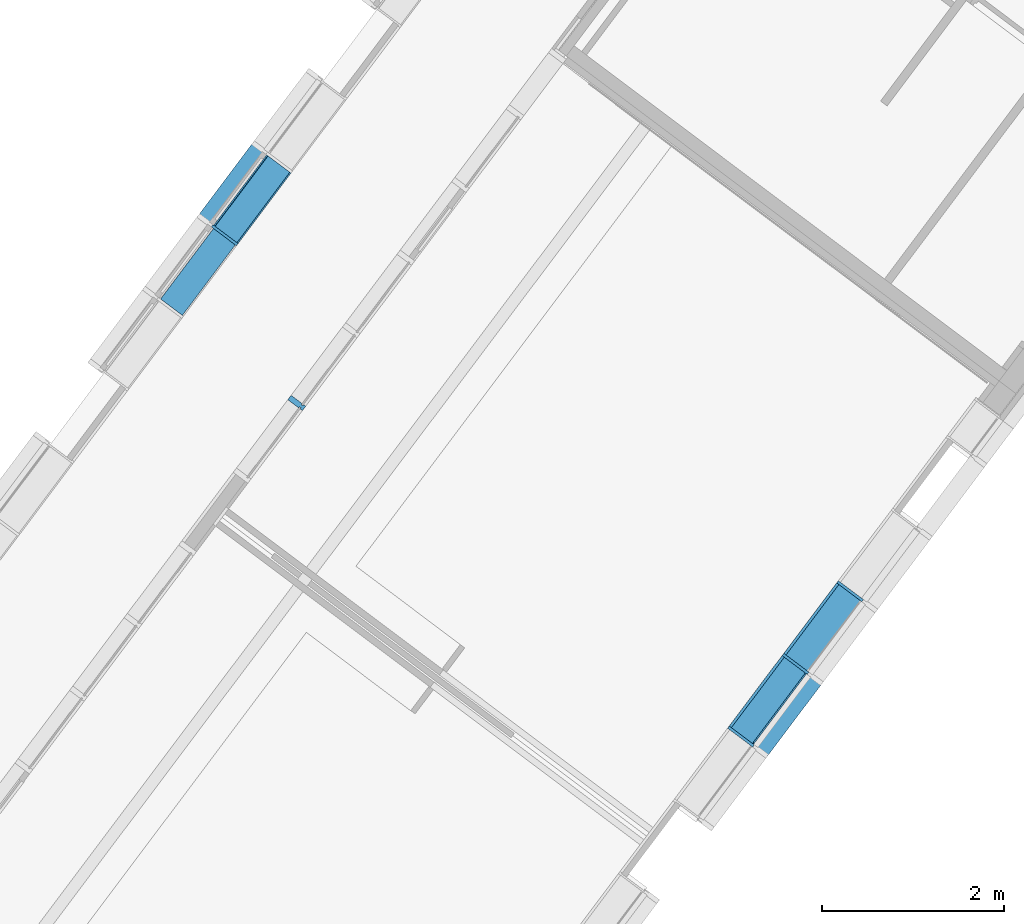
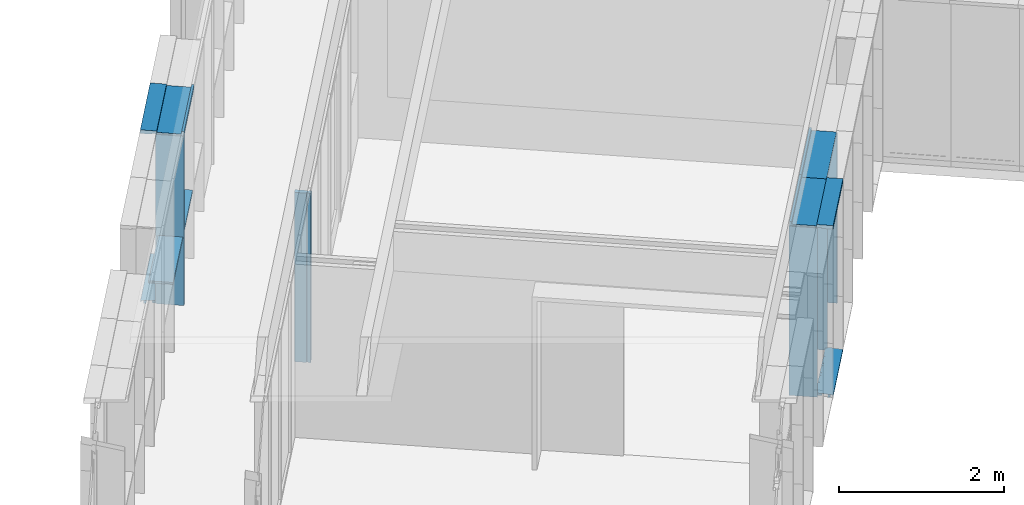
# One storey, part 58 of 243: 15 members, 5 elements without a shape of their own.
"""IFC2X3 building model written with IfcOpenShell, lengths in metres."""

from ifc_helpers import new_model, entity, si_unit, converted_unit, derived_unit, direction, frame, frame_2d, origin, place, context, subcontext, project, spatial, polyline, circle_curve, parameter, trimmed, segment, composite_curve, rectangle, outline, extrude, source, transform, mapped, material, type_object, type_shapes, element, aggregate, save


model = new_model("IFC2X3")

# Units and contexts
model_context = context("Model", 3, precision=1e-05, world=origin(), true_north=direction((6.123031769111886e-17, 1.0)))
body_context = subcontext(model_context, "Body", "Model", "MODEL_VIEW")
ifc_project = project(units=[si_unit("LENGTHUNIT", "METRE"), si_unit("AREAUNIT", "SQUARE_METRE"), si_unit("VOLUMEUNIT", "CUBIC_METRE"), converted_unit("PLANEANGLEUNIT", "DEGREE", entity("IfcRatioMeasure", 0.017453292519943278), si_unit("PLANEANGLEUNIT", "RADIAN"), dimensions=[0, 0, 0, 0, 0, 0, 0]), si_unit("MASSUNIT", "GRAM", prefix="KILO"), derived_unit("MASSDENSITYUNIT", [(si_unit("MASSUNIT", "GRAM", prefix="KILO"), 1), (si_unit("LENGTHUNIT", "METRE"), -3)]), derived_unit("IONCONCENTRATIONUNIT", [(si_unit("MASSUNIT", "GRAM", prefix="KILO"), 1), (si_unit("LENGTHUNIT", "METRE"), -3)]), derived_unit("MOMENTOFINERTIAUNIT", [(si_unit("LENGTHUNIT", "METRE"), 4)]), si_unit("TIMEUNIT", "SECOND"), si_unit("FREQUENCYUNIT", "HERTZ"), si_unit("THERMODYNAMICTEMPERATUREUNIT", "DEGREE_CELSIUS"), derived_unit("THERMALTRANSMITTANCEUNIT", [(si_unit("MASSUNIT", "GRAM", prefix="KILO"), 1), (si_unit("THERMODYNAMICTEMPERATUREUNIT", "KELVIN"), -1), (si_unit("TIMEUNIT", "SECOND"), -3)]), derived_unit("THERMALCONDUCTANCEUNIT", [(si_unit("MASSUNIT", "GRAM", prefix="KILO"), 1), (si_unit("THERMODYNAMICTEMPERATUREUNIT", "KELVIN"), -1), (si_unit("TIMEUNIT", "SECOND"), -3), (si_unit("LENGTHUNIT", "METRE"), 1)]), derived_unit("VOLUMETRICFLOWRATEUNIT", [(si_unit("LENGTHUNIT", "METRE"), 3), (si_unit("TIMEUNIT", "SECOND"), -1)]), derived_unit("MASSFLOWRATEUNIT", [(si_unit("MASSUNIT", "GRAM", prefix="KILO"), 1), (si_unit("TIMEUNIT", "SECOND"), -1)]), derived_unit("ROTATIONALFREQUENCYUNIT", [(si_unit("TIMEUNIT", "SECOND"), -1)]), si_unit("ELECTRICCURRENTUNIT", "AMPERE"), si_unit("ELECTRICVOLTAGEUNIT", "VOLT"), si_unit("POWERUNIT", "WATT"), si_unit("FORCEUNIT", "NEWTON", prefix="KILO"), si_unit("ILLUMINANCEUNIT", "LUX"), si_unit("LUMINOUSFLUXUNIT", "LUMEN"), si_unit("LUMINOUSINTENSITYUNIT", "CANDELA"), derived_unit("USERDEFINED", [(si_unit("MASSUNIT", "GRAM", prefix="KILO"), -1), (si_unit("LENGTHUNIT", "METRE"), -2), (si_unit("TIMEUNIT", "SECOND"), 3), (si_unit("LUMINOUSFLUXUNIT", "LUMEN"), 1)]), derived_unit("USERDEFINED", [(si_unit("MASSUNIT", "GRAM", prefix="KILO"), 1), (si_unit("TIMEUNIT", "SECOND"), -3), (si_unit("LENGTHUNIT", "METRE"), 3), (si_unit("ELECTRICCURRENTUNIT", "AMPERE"), -2)]), derived_unit("SOUNDPOWERUNIT", [(si_unit("MASSUNIT", "GRAM", prefix="KILO"), 1), (si_unit("TIMEUNIT", "SECOND"), -3), (si_unit("LENGTHUNIT", "METRE"), 2)]), derived_unit("SOUNDPRESSUREUNIT", [(si_unit("MASSUNIT", "GRAM", prefix="KILO"), 1), (si_unit("LENGTHUNIT", "METRE"), -1), (si_unit("TIMEUNIT", "SECOND"), -2)]), derived_unit("LINEARVELOCITYUNIT", [(si_unit("LENGTHUNIT", "METRE"), 1), (si_unit("TIMEUNIT", "SECOND"), -1)]), si_unit("PRESSUREUNIT", "PASCAL"), derived_unit("USERDEFINED", [(si_unit("MASSUNIT", "GRAM", prefix="KILO"), 1), (si_unit("LENGTHUNIT", "METRE"), -2), (si_unit("TIMEUNIT", "SECOND"), -2)]), derived_unit("LINEARFORCEUNIT", [(si_unit("MASSUNIT", "GRAM", prefix="KILO"), 1), (si_unit("TIMEUNIT", "SECOND"), -2)]), derived_unit("PLANARFORCEUNIT", [(si_unit("MASSUNIT", "GRAM", prefix="KILO"), 1), (si_unit("LENGTHUNIT", "METRE"), -1), (si_unit("TIMEUNIT", "SECOND"), -2)]), derived_unit("SPECIFICHEATCAPACITYUNIT", [(si_unit("THERMODYNAMICTEMPERATUREUNIT", "KELVIN"), -1), (si_unit("LENGTHUNIT", "METRE"), 2), (si_unit("TIMEUNIT", "SECOND"), -2)]), derived_unit("HEATINGVALUEUNIT", [(si_unit("LENGTHUNIT", "METRE"), 2), (si_unit("TIMEUNIT", "SECOND"), -2)]), derived_unit("VAPORPERMEABILITYUNIT", [(si_unit("LENGTHUNIT", "METRE"), -1), (si_unit("TIMEUNIT", "SECOND"), 1)]), derived_unit("DYNAMICVISCOSITYUNIT", [(si_unit("MASSUNIT", "GRAM", prefix="KILO"), 1), (si_unit("TIMEUNIT", "SECOND"), -1), (si_unit("LENGTHUNIT", "METRE"), -1)]), derived_unit("THERMALEXPANSIONCOEFFICIENTUNIT", [(si_unit("THERMODYNAMICTEMPERATUREUNIT", "KELVIN"), -1)]), derived_unit("MODULUSOFELASTICITYUNIT", [(si_unit("MASSUNIT", "GRAM", prefix="KILO"), 1), (si_unit("LENGTHUNIT", "METRE"), -1), (si_unit("TIMEUNIT", "SECOND"), -2)]), derived_unit("ISOTHERMALMOISTURECAPACITYUNIT", [(si_unit("LENGTHUNIT", "METRE"), 3), (si_unit("MASSUNIT", "GRAM", prefix="KILO"), -1)]), derived_unit("MOISTUREDIFFUSIVITYUNIT", [(si_unit("TIMEUNIT", "SECOND"), -1), (si_unit("LENGTHUNIT", "METRE"), 2)])], contexts=[model_context])

# Site, building, storey
site_placement = place(None, frame((0.0, 0.0, 235.0), z_axis=(0.0, 0.0, 1.0), x_axis=(-0.7996477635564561, 0.6004693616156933, 0.0)))
site = spatial("IfcSite", under=ifc_project, at=site_placement, Name="Default", CompositionType="ELEMENT")
building_placement = place(site_placement, origin())
building = spatial("IfcBuilding", under=site, at=building_placement, CompositionType="ELEMENT")
storey_placement = place(building_placement, origin())
storey = spatial("IfcBuildingStorey", under=building, at=storey_placement, Name="P0- Escola", CompositionType="ELEMENT", Elevation=0.0)

# Curtain wall, member
curtain_wall_type_1 = type_object("IfcCurtainWallType", Name="Muro cortina:MC- INT- a1", PredefinedType="NOTDEFINED")
curtain_wall_1_placement = place(storey_placement, origin())
curtain_wall_1 = element("IfcCurtainWall", 1, at=curtain_wall_1_placement, inside=storey, type_object=curtain_wall_type_1, Name="Muro cortina:MC- INT- a1", ObjectType="Muro cortina:MC- INT- a1")
ifc_material_1 = material(Name="_Fusta massisa- T1")
member_type_1 = type_object("IfcMemberType", Name="Montante rectangular:MC- Fusta- 20x6 cm- Centre", PredefinedType="MULLION", material=ifc_material_1)
shared_shape_1 = source(origin(), body_context, "Body", "SweptSolid", [
    extrude(outline(polyline([(-0.06000000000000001, -0.030000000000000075), (-0.03, -0.030000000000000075), (-0.029999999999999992, -0.015000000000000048), (-0.009999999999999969, -0.01499999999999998), (-0.009999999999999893, -0.030000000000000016), (0.14000000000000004, -0.029999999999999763), (0.13999999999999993, 0.030000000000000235), (-0.010000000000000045, 0.02999999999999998), (-0.01000000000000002, 0.014999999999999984), (-0.030000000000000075, 0.014999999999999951), (-0.03000000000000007, 0.029999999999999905), (-0.059999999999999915, 0.029999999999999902), (-0.06000000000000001, -0.030000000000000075)])), frame((0.0, -0.019999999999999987, -2.505000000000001), z_axis=(0.0, 0.0, 1.0), x_axis=(0.0, -1.0, 0.0)), (0.0, 0.0, 1.0), 2.5050000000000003),
])
type_shapes(member_type_1, [shared_shape_1])
member_1_placement = place(curtain_wall_1_placement, frame((72.720147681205, -31.415189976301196, 0.0), z_axis=(0.0, 0.0, -1.0), x_axis=(0.0, -1.0, 0.0)))
member_1 = element("IfcMember", 2, at=member_1_placement, type_object=member_type_1, material=ifc_material_1, Name="Montante rectangular:MC- Fusta- 20x6 cm- Centre", ObjectType="Montante rectangular:MC- Fusta- 20x6 cm- Centre", context=body_context, shape_type="MappedRepresentation", body=[
    mapped(shared_shape_1, transform((0.0, 0.0, 0.0), scale=1.0)),
])
aggregate(curtain_wall_1, [member_1])

# Curtain wall, members
curtain_wall_type_2 = type_object("IfcCurtainWallType", Name="Muro cortina:MC- EXT- MC2", PredefinedType="NOTDEFINED")
curtain_wall_2_placement = place(storey_placement, origin())
curtain_wall_2 = element("IfcCurtainWall", 3, at=curtain_wall_2_placement, inside=storey, type_object=curtain_wall_type_2, Name="Muro cortina:MC- EXT- MC2", ObjectType="Muro cortina:MC- EXT- MC2")
ifc_material_2 = material(Name="_Alumini- T1- Perfil")
member_type_2 = type_object("IfcMemberType", Name="Montante rectangular:MC- Alu- 140x52,5 cm- Fa patis- Superior", PredefinedType="MULLION", material=ifc_material_2)
shared_shape_2 = source(origin(), body_context, "Body", "SweptSolid", [
    extrude(outline(polyline([(-0.11366666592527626, -0.021249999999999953), (0.026333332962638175, -0.021249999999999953), (0.026333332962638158, -0.010000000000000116), (0.0873333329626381, -0.010000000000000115), (0.0873333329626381, 0.03125000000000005), (-0.11366666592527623, 0.031250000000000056), (-0.11366666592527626, -0.021249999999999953)])), frame((-0.031250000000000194, 0.0273333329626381, -1.0), z_axis=(0.0, 0.0, 1.0), x_axis=(0.0, -1.0, 0.0)), (0.0, 0.0, 1.0), 0.9999999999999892),
])
type_shapes(member_type_2, [shared_shape_2])
member_2_placement = place(curtain_wall_2_placement, frame((66.44514768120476, -32.41519175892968, 2.545), z_axis=(0.0, -1.0, 0.0), x_axis=(0.0, 0.0, 1.0)))
member_2 = element("IfcMember", 4, at=member_2_placement, type_object=member_type_2, material=ifc_material_2, Name="Montante rectangular:MC- Alu- 140x52,5 cm- Fa patis- Superior", ObjectType="Montante rectangular:MC- Alu- 140x52,5 cm- Fa patis- Superior", context=body_context, shape_type="MappedRepresentation", body=[
    mapped(shared_shape_2, transform((0.0, 0.0, 0.0), scale=1.0)),
])
member_type_3 = type_object("IfcMemberType", Name="Montante rectangular:MC- Alu- 140x52,5 cm- Fa patis- inferior", PredefinedType="MULLION", material=ifc_material_2)
shared_shape_3 = source(origin(), body_context, "Body", "SweptSolid", [
    extrude(outline(composite_curve([segment(polyline([(0.1278672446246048, -0.02586710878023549), (0.14416724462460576, -0.025867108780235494)]), True, "CONTINUOUS"), segment(polyline([(0.14416724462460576, -0.025867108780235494), (0.1441672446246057, 0.009132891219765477)]), True, "CONTINUOUS"), segment(polyline([(0.1441672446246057, 0.009132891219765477), (0.06786724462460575, 0.009132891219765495)]), True, "CONTINUOUS"), segment(polyline([(0.06786724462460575, 0.009132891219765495), (0.06786724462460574, -0.021159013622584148)]), True, "CONTINUOUS"), segment(polyline([(0.06786724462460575, -0.02115901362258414), (-0.030132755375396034, -0.012332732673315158)]), True, "CONTINUOUS"), segment(polyline([(-0.03013275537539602, -0.012332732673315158), (-0.030132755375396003, 0.027132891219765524)]), True, "CONTINUOUS"), segment(polyline([(-0.030132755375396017, 0.02713289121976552), (-0.0021327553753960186, 0.02713289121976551)]), True, "CONTINUOUS"), segment(polyline([(-0.0021327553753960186, 0.027132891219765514), (-0.0021327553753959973, 0.029132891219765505)]), True, "CONTINUOUS"), segment(polyline([(-0.0021327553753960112, 0.029132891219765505), (-0.032132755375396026, 0.029132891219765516)]), True, "CONTINUOUS"), segment(polyline([(-0.032132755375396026, 0.029132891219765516), (-0.03213275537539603, -0.012152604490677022)]), True, "CONTINUOUS"), segment(polyline([(-0.03213275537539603, -0.012152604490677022), (-0.0701327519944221, -0.008730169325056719)]), True, "CONTINUOUS"), segment(polyline([(-0.0701327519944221, -0.008730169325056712), (-0.0701327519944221, 0.005766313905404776)]), True, "CONTINUOUS"), segment(trimmed(circle_curve(frame_2d((-0.0696327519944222, 0.0057663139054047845), x_axis=(-1.0, 0.0)), 0.0004999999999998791), [parameter(269.999999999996)], [parameter(0.0)], True, "PARAMETER"), False, "CONTINUOUS"), segment(polyline([(-0.0696327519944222, 0.00626631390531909), (-0.06213275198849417, 0.006266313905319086)]), True, "CONTINUOUS"), segment(polyline([(-0.06213275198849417, 0.006266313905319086), (-0.06213275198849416, 0.008266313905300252)]), True, "CONTINUOUS"), segment(polyline([(-0.06213275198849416, 0.008266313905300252), (-0.07013275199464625, 0.008266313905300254)]), True, "CONTINUOUS"), segment(trimmed(circle_curve(frame_2d((-0.07013275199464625, 0.006266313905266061), x_axis=(0.0, 1.0)), 0.0020000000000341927), [parameter(0.0)], [parameter(90.00000002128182)], True, "PARAMETER"), True, "CONTINUOUS"), segment(polyline([(-0.07213275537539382, 0.006266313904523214), (-0.07213275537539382, -0.008730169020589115)]), True, "CONTINUOUS"), segment(trimmed(circle_curve(frame_2d((-0.07013275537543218, -0.008730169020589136), x_axis=(-1.0, 0.0)), 0.0019999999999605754), [parameter(0.0)], [parameter(84.85359280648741)], True, "PARAMETER"), True, "CONTINUOUS"), segment(polyline([(-0.07031215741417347, -0.01072210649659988), (0.06786724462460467, -0.023167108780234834)]), True, "CONTINUOUS"), segment(polyline([(0.06786724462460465, -0.023167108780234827), (0.12786724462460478, -0.023167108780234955)]), True, "CONTINUOUS"), segment(polyline([(0.12786724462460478, -0.023167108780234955), (0.1278672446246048, -0.02586710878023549)]), True, "CONTINUOUS")], self_intersect=False)), frame((-0.029132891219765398, 0.06786724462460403, -0.9737499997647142), z_axis=(0.0, 0.0, 1.0), x_axis=(0.0, -1.0, 0.0)), (0.0, 0.0, 1.0), 0.9737499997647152),
])
type_shapes(member_type_3, [shared_shape_3])
member_3_placement = place(curtain_wall_2_placement, frame((66.44514768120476, -31.441441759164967, -0.02), z_axis=(0.0, 1.0, 0.0), x_axis=(0.0, 0.0, -1.0)))
member_3 = element("IfcMember", 5, at=member_3_placement, type_object=member_type_3, material=ifc_material_2, Name="Montante rectangular:MC- Alu- 140x52,5 cm- Fa patis- inferior", ObjectType="Montante rectangular:MC- Alu- 140x52,5 cm- Fa patis- inferior", context=body_context, shape_type="MappedRepresentation", body=[
    mapped(shared_shape_3, transform((0.0, 0.0, 0.0), scale=1.0)),
])
aggregate(curtain_wall_2, [member_3, member_2])

curtain_wall_type_3 = type_object("IfcCurtainWallType", Name="Muro cortina:MC- INT- k7- Aules infantil", PredefinedType="NOTDEFINED")
curtain_wall_3_placement = place(storey_placement, origin())
curtain_wall_3 = element("IfcCurtainWall", 6, at=curtain_wall_3_placement, inside=storey, type_object=curtain_wall_type_3, Name="Muro cortina:MC- INT- k7- Aules infantil", ObjectType="Muro cortina:MC- INT- k7- Aules infantil")
member_type_4 = type_object("IfcMemberType", Name="Montante rectangular:MC- Fusta- 35x3 cm- Centre", PredefinedType="MULLION", material=ifc_material_1)
shared_shape_4 = source(origin(), body_context, "Body", "SweptSolid", [
    extrude(rectangle(XDim=0.3450000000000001, YDim=0.030000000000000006, at=frame_2d((0.0, 1.3964523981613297e-16), x_axis=(1.0, 0.0))), frame((0.0, 0.07750000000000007, -2.5049999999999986), z_axis=(0.0, 0.0, 1.0), x_axis=(0.0, -1.0, 0.0)), (0.0, 0.0, 1.0), 2.5049999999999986),
])
type_shapes(member_type_4, [shared_shape_4])
member_4_placement = place(curtain_wall_3_placement, frame((66.745147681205, -31.41519175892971, 0.0), z_axis=(0.0, 0.0, -1.0), x_axis=(0.0, -1.0, 0.0)))
member_4 = element("IfcMember", 7, at=member_4_placement, type_object=member_type_4, material=ifc_material_1, Name="Montante rectangular:MC- Fusta- 35x3 cm- Centre", ObjectType="Montante rectangular:MC- Fusta- 35x3 cm- Centre", context=body_context, shape_type="MappedRepresentation", body=[
    mapped(shared_shape_4, transform((0.0, 0.0, 0.0), scale=1.0)),
])
member_5_placement = place(curtain_wall_3_placement, frame((66.745147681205, -32.41519175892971, 0.0), z_axis=(0.0, 0.0, -1.0), x_axis=(0.0, -1.0, 0.0)))
member_5 = element("IfcMember", 8, at=member_5_placement, type_object=member_type_4, material=ifc_material_1, Name="Montante rectangular:MC- Fusta- 35x3 cm- Centre", ObjectType="Montante rectangular:MC- Fusta- 35x3 cm- Centre", context=body_context, shape_type="MappedRepresentation", body=[
    mapped(shared_shape_4, transform((0.0, 0.0, 0.0), scale=1.0)),
])
member_6_placement = place(curtain_wall_3_placement, frame((66.745147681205, -33.4151917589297, 0.0), z_axis=(0.0, 0.0, -1.0), x_axis=(0.0, -1.0, 0.0)))
member_6 = element("IfcMember", 9, at=member_6_placement, type_object=member_type_4, material=ifc_material_1, Name="Montante rectangular:MC- Fusta- 35x3 cm- Centre", ObjectType="Montante rectangular:MC- Fusta- 35x3 cm- Centre", context=body_context, shape_type="MappedRepresentation", body=[
    mapped(shared_shape_4, transform((0.0, 0.0, 0.0), scale=1.0)),
])
member_type_5 = type_object("IfcMemberType", Name="Montante rectangular:MC- Fusta- 35x3 cm- Pati aules- Remat superior", PredefinedType="MULLION", material=ifc_material_1)
shared_shape_5 = source(origin(), body_context, "Body", "SweptSolid", [
    extrude(outline(polyline([(-0.21333333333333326, -0.02666666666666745), (0.1216666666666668, -0.02666666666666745), (0.12166666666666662, 0.03333333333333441), (0.09166666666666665, 0.03333333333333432), (0.09166666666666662, -0.006666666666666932), (-0.2133333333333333, -0.006666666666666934), (-0.21333333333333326, -0.02666666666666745)])), frame((-0.033333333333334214, 0.026666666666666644, -1.0), z_axis=(0.0, 0.0, 1.0), x_axis=(0.0, -1.0, 0.0)), (0.0, 0.0, 1.0), 0.9999999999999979),
])
type_shapes(member_type_5, [shared_shape_5])
member_7_placement = place(curtain_wall_3_placement, frame((66.745147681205, -32.41519175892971, 2.565), z_axis=(0.0, -1.0, 0.0), x_axis=(0.0, 0.0, 1.0)))
member_7 = element("IfcMember", 10, at=member_7_placement, type_object=member_type_5, material=ifc_material_1, Name="Montante rectangular:MC- Fusta- 35x3 cm- Pati aules- Remat superior", ObjectType="Montante rectangular:MC- Fusta- 35x3 cm- Pati aules- Remat superior", context=body_context, shape_type="MappedRepresentation", body=[
    mapped(shared_shape_5, transform((0.0, 0.0, 0.0), scale=1.0)),
])
member_8_placement = place(curtain_wall_3_placement, frame((66.745147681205, -33.4151917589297, 2.565), z_axis=(0.0, -1.0, 0.0), x_axis=(0.0, 0.0, 1.0)))
member_8 = element("IfcMember", 11, at=member_8_placement, type_object=member_type_5, material=ifc_material_1, Name="Montante rectangular:MC- Fusta- 35x3 cm- Pati aules- Remat superior", ObjectType="Montante rectangular:MC- Fusta- 35x3 cm- Pati aules- Remat superior", context=body_context, shape_type="MappedRepresentation", body=[
    mapped(shared_shape_5, transform((0.0, 0.0, 0.0), scale=1.0)),
])
aggregate(curtain_wall_3, [member_4, member_7, member_5, member_8, member_6])

curtain_wall_type_4 = type_object("IfcCurtainWallType", Name="Muro cortina:MC- INT- k2", PredefinedType="NOTDEFINED")
curtain_wall_4_placement = place(storey_placement, origin())
curtain_wall_4 = element("IfcCurtainWall", 12, at=curtain_wall_4_placement, inside=storey, type_object=curtain_wall_type_4, Name="Muro cortina:MC- INT- k2", ObjectType="Muro cortina:MC- INT- k2")
member_type_6 = type_object("IfcMemberType", Name="Montante rectangular:MC- Fusta- 35x3 cm- Centre", PredefinedType="MULLION", material=ifc_material_1)
shared_shape_6 = source(origin(), body_context, "Body", "SweptSolid", [
    extrude(rectangle(XDim=0.3450000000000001, YDim=0.030000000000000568, at=frame_2d((0.0, -1.3964523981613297e-16), x_axis=(1.0, 0.0))), frame((0.0, -0.07750000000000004, -1.0), z_axis=(0.0, 0.0, 1.0), x_axis=(0.0, -1.0, 0.0)), (0.0, 0.0, 1.0), 1.0),
])
type_shapes(member_type_6, [shared_shape_6])
member_9_placement = place(curtain_wall_4_placement, frame((74.44514768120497, -32.41519175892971, 0.0), z_axis=(0.0, 0.0, -1.0), x_axis=(0.0, -1.0, 0.0)))
member_9 = element("IfcMember", 13, at=member_9_placement, type_object=member_type_6, material=ifc_material_1, Name="Montante rectangular:MC- Fusta- 35x3 cm- Centre", ObjectType="Montante rectangular:MC- Fusta- 35x3 cm- Centre", context=body_context, shape_type="MappedRepresentation", body=[
    mapped(shared_shape_6, transform((0.0, 0.0, 0.0), scale=1.0)),
])
member_type_7 = type_object("IfcMemberType", Name="Montante rectangular:MC- Fusta- 35x3 cm- Pati aules- Remat superior", PredefinedType="MULLION", material=ifc_material_1)
shared_shape_7 = source(origin(), body_context, "Body", "SweptSolid", [
    extrude(outline(polyline([(-0.12166666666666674, -0.02666666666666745), (0.21333333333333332, -0.02666666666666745), (0.2133333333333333, -0.006666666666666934), (-0.09166666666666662, -0.006666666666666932), (-0.09166666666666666, 0.03333333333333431), (-0.12166666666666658, 0.03333333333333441), (-0.12166666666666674, -0.02666666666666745)])), frame((-0.033333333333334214, -0.026666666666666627, -1.0), z_axis=(0.0, 0.0, 1.0), x_axis=(0.0, -1.0, 0.0)), (0.0, 0.0, 1.0), 0.9999999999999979),
])
type_shapes(member_type_7, [shared_shape_7])
member_10_placement = place(curtain_wall_4_placement, frame((74.44514768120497, -33.4151917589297, 2.565), z_axis=(0.0, -1.0, 0.0), x_axis=(0.0, 0.0, 1.0)))
member_10 = element("IfcMember", 14, at=member_10_placement, type_object=member_type_7, material=ifc_material_1, Name="Montante rectangular:MC- Fusta- 35x3 cm- Pati aules- Remat superior", ObjectType="Montante rectangular:MC- Fusta- 35x3 cm- Pati aules- Remat superior", context=body_context, shape_type="MappedRepresentation", body=[
    mapped(shared_shape_7, transform((0.0, 0.0, 0.0), scale=1.0)),
])
member_type_8 = type_object("IfcMemberType", Name="Montante rectangular:MC- Fusta- 35x3 cm- Pati aules- Prestatge", PredefinedType="MULLION", material=ifc_material_1)
shared_shape_8 = source(origin(), body_context, "Body", "SweptSolid", [
    extrude(rectangle(XDim=0.30000000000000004, YDim=0.03000000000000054, at=frame_2d((0.0, -1.231653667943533e-16), x_axis=(1.0, 0.0))), frame((0.0, -0.07000000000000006, -0.9699999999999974), z_axis=(0.0, 0.0, 1.0), x_axis=(0.0, -1.0, 0.0)), (0.0, 0.0, 1.0), 0.969999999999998),
])
type_shapes(member_type_8, [shared_shape_8])
member_11_placement = place(curtain_wall_4_placement, frame((74.44514768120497, -32.40019175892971, 1.0), z_axis=(0.0, -1.0, 0.0), x_axis=(0.0, 0.0, 1.0)))
member_11 = element("IfcMember", 15, at=member_11_placement, type_object=member_type_8, material=ifc_material_1, Name="Montante rectangular:MC- Fusta- 35x3 cm- Pati aules- Prestatge", ObjectType="Montante rectangular:MC- Fusta- 35x3 cm- Pati aules- Prestatge", context=body_context, shape_type="MappedRepresentation", body=[
    mapped(shared_shape_8, transform((0.0, 0.0, 0.0), scale=1.0)),
])
member_12_placement = place(curtain_wall_4_placement, frame((74.44514768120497, -33.4001917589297, 1.0), z_axis=(0.0, -1.0, 0.0), x_axis=(0.0, 0.0, 1.0)))
member_12 = element("IfcMember", 16, at=member_12_placement, type_object=member_type_8, material=ifc_material_1, Name="Montante rectangular:MC- Fusta- 35x3 cm- Pati aules- Prestatge", ObjectType="Montante rectangular:MC- Fusta- 35x3 cm- Pati aules- Prestatge", context=body_context, shape_type="MappedRepresentation", body=[
    mapped(shared_shape_8, transform((0.0, 0.0, 0.0), scale=1.0)),
])
member_type_9 = type_object("IfcMemberType", Name="Montante rectangular:MC- Fusta- 35x3 cm- Centre", PredefinedType="MULLION", material=ifc_material_1)
shared_shape_9 = source(origin(), body_context, "Body", "SweptSolid", [
    extrude(rectangle(XDim=0.3450000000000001, YDim=0.030000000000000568, at=frame_2d((0.0, -1.3964523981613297e-16), x_axis=(1.0, 0.0))), frame((0.0, -0.07750000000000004, -1.504999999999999), z_axis=(0.0, 0.0, 1.0), x_axis=(0.0, -1.0, 0.0)), (0.0, 0.0, 1.0), 1.504999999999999),
])
type_shapes(member_type_9, [shared_shape_9])
member_13_placement = place(curtain_wall_4_placement, frame((74.44514768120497, -32.41519175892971, 1.0), z_axis=(0.0, 0.0, -1.0), x_axis=(0.0, -1.0, 0.0)))
member_13 = element("IfcMember", 17, at=member_13_placement, type_object=member_type_9, material=ifc_material_1, Name="Montante rectangular:MC- Fusta- 35x3 cm- Centre", ObjectType="Montante rectangular:MC- Fusta- 35x3 cm- Centre", context=body_context, shape_type="MappedRepresentation", body=[
    mapped(shared_shape_9, transform((0.0, 0.0, 0.0), scale=1.0)),
])
aggregate(curtain_wall_4, [member_9, member_10, member_11, member_12, member_13])

curtain_wall_type_5 = type_object("IfcCurtainWallType", Name="Muro cortina:MC- EXT- MC5", PredefinedType="NOTDEFINED")
curtain_wall_5_placement = place(storey_placement, origin())
curtain_wall_5 = element("IfcCurtainWall", 18, at=curtain_wall_5_placement, inside=storey, type_object=curtain_wall_type_5, Name="Muro cortina:MC- EXT- MC5", ObjectType="Muro cortina:MC- EXT- MC5")
member_type_10 = type_object("IfcMemberType", Name="Montante rectangular:MC- Alu- 140x52,5 cm- Fa patis- Superior", PredefinedType="MULLION", material=ifc_material_2)
shared_shape_10 = source(origin(), body_context, "Body", "SweptSolid", [
    extrude(outline(polyline([(-0.026333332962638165, -0.021249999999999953), (0.11366666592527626, -0.021249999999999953), (0.11366666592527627, 0.031250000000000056), (-0.08733333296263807, 0.03125000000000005), (-0.0873333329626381, -0.010000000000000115), (-0.026333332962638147, -0.010000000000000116), (-0.026333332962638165, -0.021249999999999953)])), frame((-0.031250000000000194, -0.02733333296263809, -1.0), z_axis=(0.0, 0.0, 1.0), x_axis=(0.0, -1.0, 0.0)), (0.0, 0.0, 1.0), 1.0000000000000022),
])
type_shapes(member_type_10, [shared_shape_10])
member_14_placement = place(curtain_wall_5_placement, frame((74.74514768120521, -33.41519175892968, 2.545), z_axis=(0.0, -1.0, 0.0), x_axis=(0.0, 0.0, 1.0)))
member_14 = element("IfcMember", 19, at=member_14_placement, type_object=member_type_10, material=ifc_material_2, Name="Montante rectangular:MC- Alu- 140x52,5 cm- Fa patis- Superior", ObjectType="Montante rectangular:MC- Alu- 140x52,5 cm- Fa patis- Superior", context=body_context, shape_type="MappedRepresentation", body=[
    mapped(shared_shape_10, transform((0.0, 0.0, 0.0), scale=1.0)),
])
member_type_11 = type_object("IfcMemberType", Name="Montante rectangular:MC- Alu- 140x52,5 cm- Fa patis- inferior", PredefinedType="MULLION", material=ifc_material_2)
shared_shape_11 = source(origin(), body_context, "Body", "SweptSolid", [
    extrude(outline(composite_curve([segment(polyline([(-0.144167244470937, -0.02586710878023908), (-0.12786724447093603, -0.025867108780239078)]), True, "CONTINUOUS"), segment(polyline([(-0.12786724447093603, -0.025867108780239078), (-0.12786724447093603, -0.023167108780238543)]), True, "CONTINUOUS"), segment(polyline([(-0.12786724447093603, -0.023167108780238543), (-0.0678672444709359, -0.023167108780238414)]), True, "CONTINUOUS"), segment(polyline([(-0.0678672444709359, -0.023167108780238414), (0.07031215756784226, -0.01072210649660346)]), True, "CONTINUOUS"), segment(trimmed(circle_curve(frame_2d((0.07013275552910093, -0.00873016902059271), x_axis=(0.0897010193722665, -0.9959687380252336)), 0.0019999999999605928), [parameter(0.0)], [parameter(84.85359280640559)], True, "PARAMETER"), True, "CONTINUOUS"), segment(polyline([(0.07213275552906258, -0.008730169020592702), (0.07213275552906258, 0.006266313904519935)]), True, "CONTINUOUS"), segment(trimmed(circle_curve(frame_2d((0.070132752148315, 0.0062663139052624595), x_axis=(1.0, 0.0)), 0.0020000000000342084), [parameter(0.0)], [parameter(90.00000002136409)], True, "PARAMETER"), True, "CONTINUOUS"), segment(polyline([(0.070132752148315, 0.008266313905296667), (0.06213275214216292, 0.008266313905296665)]), True, "CONTINUOUS"), segment(polyline([(0.06213275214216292, 0.008266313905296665), (0.06213275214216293, 0.006266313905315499)]), True, "CONTINUOUS"), segment(polyline([(0.06213275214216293, 0.006266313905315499), (0.06963275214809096, 0.006266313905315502)]), True, "CONTINUOUS"), segment(trimmed(circle_curve(frame_2d((0.06963275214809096, 0.005766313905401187), x_axis=(0.0, 1.0)), 0.000499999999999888), [parameter(269.9999999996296)], [parameter(0.0)], True, "PARAMETER"), False, "CONTINUOUS"), segment(polyline([(0.07013275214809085, 0.005766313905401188), (0.07013275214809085, -0.0087301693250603)]), True, "CONTINUOUS"), segment(polyline([(0.07013275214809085, -0.0087301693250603), (0.03213275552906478, -0.01215260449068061)]), True, "CONTINUOUS"), segment(polyline([(0.03213275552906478, -0.012152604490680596), (0.03213275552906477, 0.02913289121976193)]), True, "CONTINUOUS"), segment(polyline([(0.03213275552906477, 0.02913289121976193), (0.0021327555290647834, 0.029132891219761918)]), True, "CONTINUOUS"), segment(polyline([(0.0021327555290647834, 0.029132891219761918), (0.0021327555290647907, 0.027132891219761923)]), True, "CONTINUOUS"), segment(polyline([(0.0021327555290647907, 0.027132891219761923), (0.03013275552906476, 0.027132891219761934)]), True, "CONTINUOUS"), segment(polyline([(0.03013275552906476, 0.027132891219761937), (0.03013275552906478, -0.012332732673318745)]), True, "CONTINUOUS"), segment(polyline([(0.03013275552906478, -0.012332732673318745), (-0.06786724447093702, -0.02115901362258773)]), True, "CONTINUOUS"), segment(polyline([(-0.06786724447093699, -0.021159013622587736), (-0.067867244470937, 0.009132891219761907)]), True, "CONTINUOUS"), segment(polyline([(-0.06786724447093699, 0.009132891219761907), (-0.14416724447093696, 0.00913289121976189)]), True, "CONTINUOUS"), segment(polyline([(-0.14416724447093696, 0.00913289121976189), (-0.144167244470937, -0.02586710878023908)]), True, "CONTINUOUS")], self_intersect=False)), frame((-0.02913289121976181, -0.06786724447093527, -1.0), z_axis=(0.0, 0.0, 1.0), x_axis=(0.0, -1.0, 0.0)), (0.0, 0.0, 1.0), 0.9999999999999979),
])
type_shapes(member_type_11, [shared_shape_11])
member_15_placement = place(curtain_wall_5_placement, frame((74.74514768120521, -32.41519175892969, -0.02), z_axis=(0.0, 1.0, 0.0), x_axis=(0.0, 0.0, -1.0)))
member_15 = element("IfcMember", 20, at=member_15_placement, type_object=member_type_11, material=ifc_material_2, Name="Montante rectangular:MC- Alu- 140x52,5 cm- Fa patis- inferior", ObjectType="Montante rectangular:MC- Alu- 140x52,5 cm- Fa patis- inferior", context=body_context, shape_type="MappedRepresentation", body=[
    mapped(shared_shape_11, transform((0.0, 0.0, 0.0), scale=1.0)),
])
aggregate(curtain_wall_5, [member_15, member_14])

save(model, "model.ifc")
